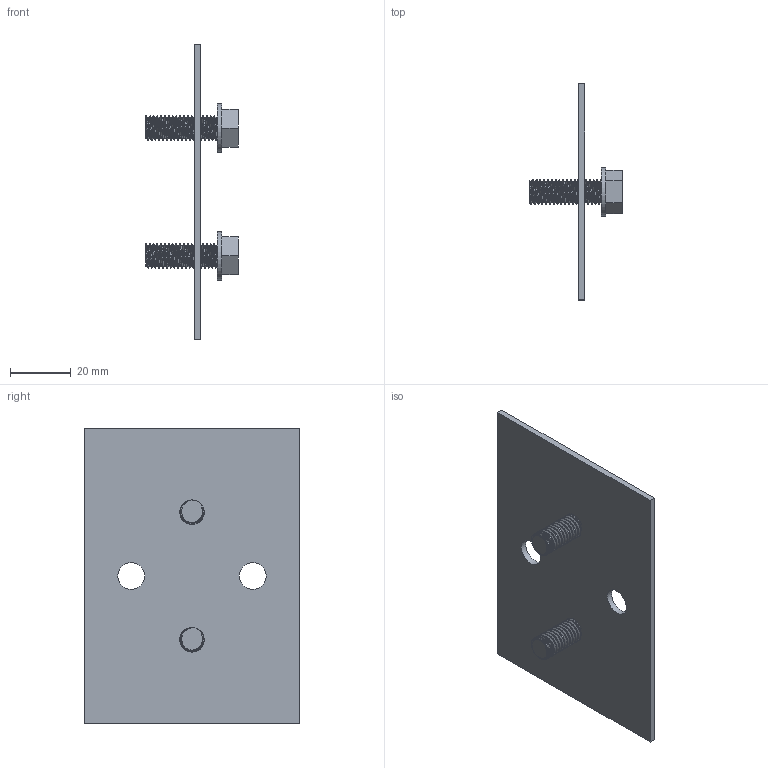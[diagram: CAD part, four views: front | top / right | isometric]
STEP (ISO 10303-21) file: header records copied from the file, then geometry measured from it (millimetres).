
FILE_DESCRIPTION(/* description */ (''),/* implementation_level */ '2;1');
FILE_NAME(/* name */ '1000153',/* time_stamp */ '2014-06-17T08:55:25+02:00',/* author */ (''),/* organization */ (''),/* preprocessor_version */ 'ST-DEVELOPER v9',/* originating_system */ 'UGS - NX 4.0',/* authorisation */ '');
FILE_SCHEMA (('CONFIG_CONTROL_DESIGN'));
Length unit declared in the file: millimetre
Products named in the file (1): MTro0CB7as87
Bounding box: 30.3 x 71 x 97.24 mm (x, y, z)
Volume: 17670.8 mm3; surface area: 18109.8 mm2
Topology: 5 solids, 5 shells, 48 faces, 113 edges, 77 vertices
Faces by surface type: plane 30, cylinder 12, bspline 6
Full cylindrical faces by diameter (mm): 6.985 x2, 8.4 x2, 8.782 x2, 16 x2
Entity records: 12480 total; most frequent: CARTESIAN_POINT 11371, ORIENTED_EDGE 200, DIRECTION 184, EDGE_CURVE 100, VERTEX_POINT 72, EDGE_LOOP 70, AXIS2_PLACEMENT_3D 65, LINE 54
